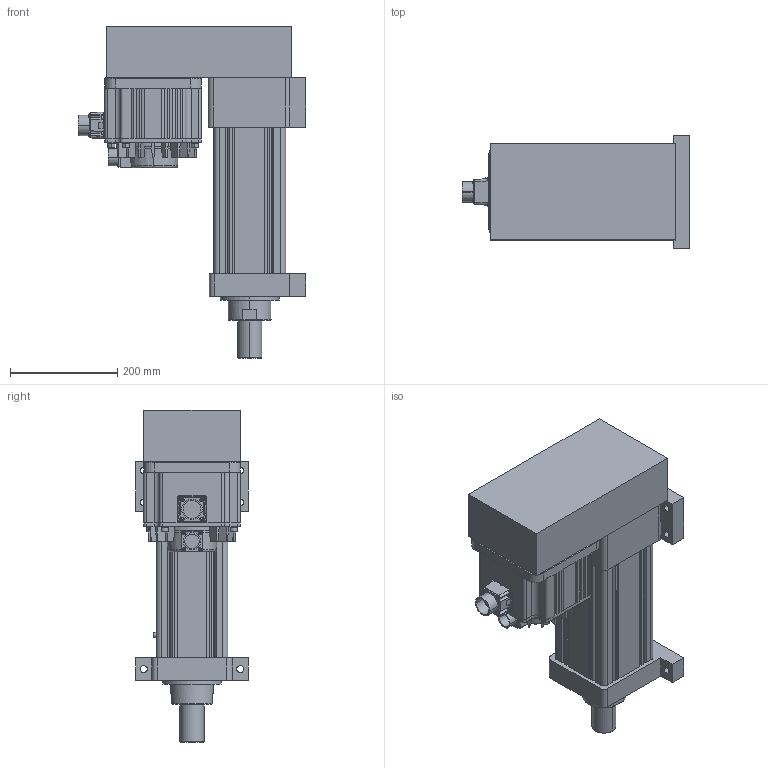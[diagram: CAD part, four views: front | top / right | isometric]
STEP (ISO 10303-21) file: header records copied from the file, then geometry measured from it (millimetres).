
FILE_DESCRIPTION (( 'STEP AP203' ), '1' );
FILE_NAME ('S5殏殿耜醱假蚾.STEP', '2024-08-14T08:24:45', ( '' ), ( '' ), 'SwSTEP 2.0', 'SolidWorks 2018', '' );
FILE_SCHEMA (( 'CONFIG_CONTROL_DESIGN' ));
Length unit declared in the file: millimetre
Products named in the file (3): S5殏殿耜醱; S5殏殿耜醱假蚾; ECMA-EX1820RS-180框號系列機種-2KW中慣量系列
Assembly tree (2 placements, depth 2):
  S5殏殿耜醱假蚾
    ECMA-EX1820RS-180框號系列機種-2KW中慣量系列
    S5殏殿耜醱
Bounding box: 425.02 x 210 x 619 mm (x, y, z)
Volume: 15291937.8 mm3; surface area: 1073664.5 mm2
Topology: 3 solids, 15 shells, 931 faces, 2229 edges, 1407 vertices
Faces by surface type: plane 496, cylinder 330, cone 62, bspline 27, torus 16
Entity records: 29203 total; most frequent: CARTESIAN_POINT 7210, DIRECTION 4514, ORIENTED_EDGE 4454, EDGE_CURVE 2227, AXIS2_PLACEMENT_3D 1571, VERTEX_POINT 1407, LINE 1372, VECTOR 1372
